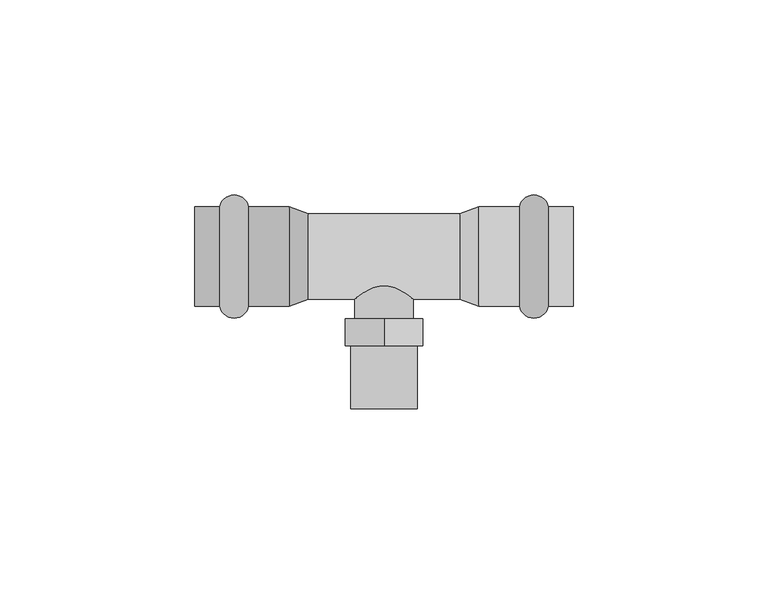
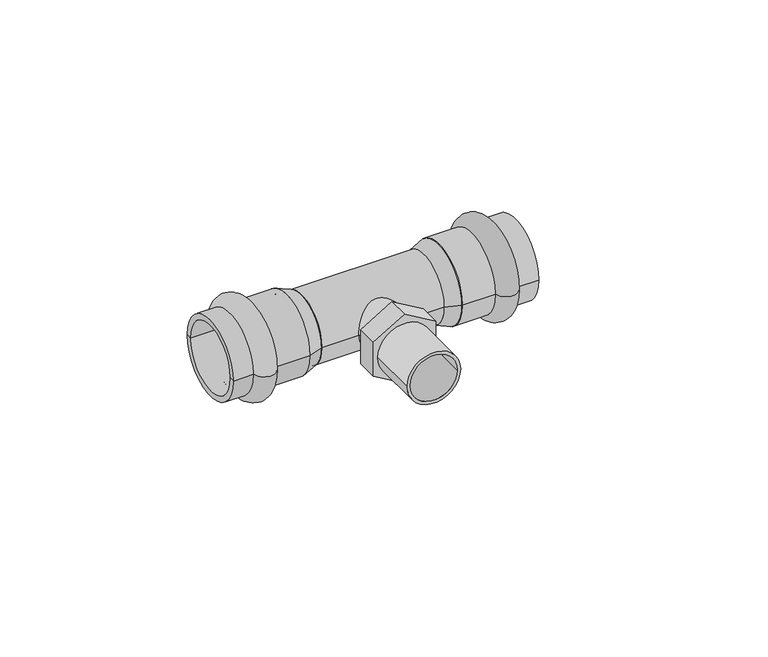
"""IFC4 building model written with IfcOpenShell, lengths in millimetres: pipe fitting geometry, VALTEC_VTi.933.I_Тройник с переходом на наружную  резьбу нержавеющая сталь : VTi.933.I."""

from ifc_helpers import new_model, si_unit, point, frame, origin, origin_2d, place, context, project, spatial, polyline, circle_curve, ellipse_curve, trimmed, segment, composite_curve, outline, extrude, source, transform, mapped, element, save
from ifc_brep_helpers import plane_surface, cylinder_surface, revolved_surface, advanced_brep


def pipe_fitting_0091a173(model_context):
    return source(origin(), model_context, "Body", "SolidModel", [
        advanced_brep(
        [(42.1242346, 12.8, 0.0), (42.1242346, -12.8, 0.0), (34.7757654, -12.8, 0.0), (34.7757654, 12.8, 0.0), (48.5, 12.8, 0.0), (48.5, -12.8, 0.0), (48.5, 11.0, 0.0), (48.5, -11.0, 0.0), (24.25, 11.0, 0.0), (24.25, -11.0, 0.0), (24.25, 12.8, 0.0), (24.25, -12.8, 0.0)],
        [
            (0, 1, circle_curve(frame((42.1242346, 0.0, 0.0), z_axis=(-1.0, 0.0, 0.0), x_axis=(0.0, -1.0, 0.0)), 12.8)),
            (1, 2, circle_curve(frame((38.45, -12.05, 0.0), z_axis=(0.0, 0.0, -1.0), x_axis=(-1.0, 0.0, 0.0)), 3.75)),
            (2, 3, circle_curve(frame((34.7757654, 0.0, 0.0), z_axis=(1.0, 0.0, 0.0), x_axis=(0.0, -1.0, 0.0)), 12.8)),
            (3, 0, circle_curve(frame((38.45, 12.05, 0.0), z_axis=(0.0, 0.0, -1.0), x_axis=(-1.0, 0.0, 0.0)), 3.75)),
            (1, 0, circle_curve(frame((42.1242346, 0.0, 0.0), z_axis=(-1.0, 0.0, 0.0), x_axis=(0.0, -1.0, 0.0)), 12.8)),
            (3, 2, circle_curve(frame((34.7757654, 0.0, 0.0), z_axis=(1.0, 0.0, 0.0), x_axis=(0.0, -1.0, 0.0)), 12.8)),
            (4, 5, circle_curve(frame((48.5, 0.0, 0.0), z_axis=(-1.0, 0.0, 0.0), x_axis=(0.0, -1.0, 0.0)), 12.8)),
            (5, 1),
            (0, 4),
            (5, 4, circle_curve(frame((48.5, 0.0, 0.0), z_axis=(-1.0, 0.0, 0.0), x_axis=(0.0, -1.0, 0.0)), 12.8)),
            (6, 7, circle_curve(frame((48.5, 0.0, 0.0), z_axis=(-1.0, 0.0, 0.0), x_axis=(0.0, -1.0, 0.0)), 11.0)),
            (7, 5),
            (4, 6),
            (7, 6, circle_curve(frame((48.5, 0.0, 0.0), z_axis=(-1.0, 0.0, 0.0), x_axis=(0.0, -1.0, 0.0)), 11.0)),
            (8, 9, circle_curve(frame((24.25, 0.0, 0.0), z_axis=(-1.0, 0.0, 0.0), x_axis=(0.0, -1.0, 0.0)), 11.0)),
            (9, 7),
            (6, 8),
            (9, 8, circle_curve(frame((24.25, 0.0, 0.0), z_axis=(-1.0, 0.0, 0.0), x_axis=(0.0, -1.0, 0.0)), 11.0)),
            (10, 11, circle_curve(frame((24.25, 0.0, 0.0), z_axis=(-1.0, 0.0, 0.0), x_axis=(0.0, -1.0, 0.0)), 12.8)),
            (11, 9),
            (8, 10),
            (11, 10, circle_curve(frame((24.25, 0.0, 0.0), z_axis=(-1.0, 0.0, 0.0), x_axis=(0.0, -1.0, 0.0)), 12.8)),
            (2, 11),
            (10, 3),
        ],
        [
            revolved_surface(trimmed(ellipse_curve(frame((38.45, -12.05, 0.0), z_axis=(0.0, 0.0, 1.0), x_axis=(-1.0, 0.0, 0.0)), 3.75, 3.75), [point((34.7757654, -12.8, 0.0))], [point((42.1242346, -12.8, 0.0))], True, "CARTESIAN"), (52.0364426, 0.0, 0.0), (1.0, 0.0, 0.0)),
            cylinder_surface(frame((52.0364426, 0.0, 0.0), z_axis=(1.0, 0.0, 0.0), x_axis=(0.0, -1.0, 0.0)), 12.8),
            plane_surface(frame((48.5, 0.0, 0.0), z_axis=(1.0, 0.0, 0.0), x_axis=(0.0, -1.0, 0.0))),
            revolved_surface(polyline([(48.5, -11.0, 0.0), (24.25, -11.0, 0.0)]), (52.0364426, 0.0, 0.0), (1.0, 0.0, 0.0)),
            plane_surface(frame((24.25, 0.0, 0.0), z_axis=(-1.0, 0.0, 0.0), x_axis=(0.0, -1.0, 0.0))),
        ],
        [
            (0, [[1, 2, 3, 4]]),
            (0, [[5, -4, 6, -2]]),
            (1, [[7, 8, -1, 9]]),
            (1, [[10, -9, -5, -8]]),
            (2, [[11, 12, -7, 13]]),
            (2, [[14, -13, -10, -12]]),
            (3, [[15, 16, -11, 17]]),
            (3, [[18, -17, -14, -16]]),
            (4, [[19, 20, -15, 21]]),
            (4, [[22, -21, -18, -20]]),
            (1, [[-3, 23, -19, 24]]),
            (1, [[-6, -24, -22, -23]]),
        ],
    ),
        advanced_brep(
        [(-42.1242346, -12.8, 0.0), (-42.1242346, 12.8, 0.0), (-34.7757654, 12.8, 0.0), (-34.7757654, -12.8, 0.0), (-48.5, -12.8, 0.0), (-48.5, 12.8, 0.0), (-48.5, -11.0, 0.0), (-48.5, 11.0, 0.0), (-24.25, -11.0, 0.0), (-24.25, 11.0, 0.0), (-24.25, -12.8, 0.0), (-24.25, 12.8, 0.0)],
        [
            (0, 1, circle_curve(frame((-42.1242346, 0.0, 0.0), z_axis=(1.0, 0.0, 0.0), x_axis=(0.0, 1.0, 0.0)), 12.8)),
            (1, 2, circle_curve(frame((-38.45, 12.05, 0.0), z_axis=(0.0, 0.0, -1.0), x_axis=(1.0, 0.0, 0.0)), 3.75)),
            (2, 3, circle_curve(frame((-34.7757654, 0.0, 0.0), z_axis=(-1.0, 0.0, 0.0), x_axis=(0.0, 1.0, 0.0)), 12.8)),
            (3, 0, circle_curve(frame((-38.45, -12.05, 0.0), z_axis=(0.0, 0.0, -1.0), x_axis=(1.0, 0.0, 0.0)), 3.75)),
            (1, 0, circle_curve(frame((-42.1242346, 0.0, 0.0), z_axis=(1.0, 0.0, 0.0), x_axis=(0.0, 1.0, 0.0)), 12.8)),
            (3, 2, circle_curve(frame((-34.7757654, 0.0, 0.0), z_axis=(-1.0, 0.0, 0.0), x_axis=(0.0, 1.0, 0.0)), 12.8)),
            (4, 5, circle_curve(frame((-48.5, 0.0, 0.0), z_axis=(1.0, 0.0, 0.0), x_axis=(0.0, 1.0, 0.0)), 12.8)),
            (5, 1),
            (0, 4),
            (5, 4, circle_curve(frame((-48.5, 0.0, 0.0), z_axis=(1.0, 0.0, 0.0), x_axis=(0.0, 1.0, 0.0)), 12.8)),
            (6, 7, circle_curve(frame((-48.5, 0.0, 0.0), z_axis=(1.0, 0.0, 0.0), x_axis=(0.0, 1.0, 0.0)), 11.0)),
            (7, 5),
            (4, 6),
            (7, 6, circle_curve(frame((-48.5, 0.0, 0.0), z_axis=(1.0, 0.0, 0.0), x_axis=(0.0, 1.0, 0.0)), 11.0)),
            (8, 9, circle_curve(frame((-24.25, 0.0, 0.0), z_axis=(1.0, 0.0, 0.0), x_axis=(0.0, 1.0, 0.0)), 11.0)),
            (9, 7),
            (6, 8),
            (9, 8, circle_curve(frame((-24.25, 0.0, 0.0), z_axis=(1.0, 0.0, 0.0), x_axis=(0.0, 1.0, 0.0)), 11.0)),
            (10, 11, circle_curve(frame((-24.25, 0.0, 0.0), z_axis=(1.0, 0.0, 0.0), x_axis=(0.0, 1.0, 0.0)), 12.8)),
            (11, 9),
            (8, 10),
            (11, 10, circle_curve(frame((-24.25, 0.0, 0.0), z_axis=(1.0, 0.0, 0.0), x_axis=(0.0, 1.0, 0.0)), 12.8)),
            (2, 11),
            (10, 3),
        ],
        [
            revolved_surface(trimmed(ellipse_curve(frame((-38.45, 12.05, 0.0), z_axis=(0.0, 0.0, 1.0), x_axis=(1.0, 0.0, 0.0)), 3.75, 3.75), [point((-34.7757654, 12.8, 0.0))], [point((-42.1242346, 12.8, 0.0))], True, "CARTESIAN"), (-52.0364426, 0.0, 0.0), (-1.0, 0.0, 0.0)),
            cylinder_surface(frame((-52.0364426, 0.0, 0.0), z_axis=(-1.0, 0.0, 0.0), x_axis=(0.0, 1.0, 0.0)), 12.8),
            plane_surface(frame((-48.5, 0.0, 0.0), z_axis=(-1.0, 0.0, 0.0), x_axis=(0.0, 1.0, 0.0))),
            revolved_surface(polyline([(-48.5, 11.0, 0.0), (-24.25, 11.0, 0.0)]), (-52.0364426, 0.0, 0.0), (-1.0, 0.0, 0.0)),
            plane_surface(frame((-24.25, 0.0, 0.0), z_axis=(1.0, 0.0, 0.0), x_axis=(0.0, 1.0, 0.0))),
        ],
        [
            (0, [[1, 2, 3, 4]]),
            (0, [[5, -4, 6, -2]]),
            (1, [[7, 8, -1, 9]]),
            (1, [[10, -9, -5, -8]]),
            (2, [[11, 12, -7, 13]]),
            (2, [[14, -13, -10, -12]]),
            (3, [[15, 16, -11, 17]]),
            (3, [[18, -17, -14, -16]]),
            (4, [[19, 20, -15, 21]]),
            (4, [[22, -21, -18, -20]]),
            (1, [[-3, 23, -19, 24]]),
            (1, [[-6, -24, -22, -23]]),
        ],
    ),
        extrude(outline(composite_curve([segment(trimmed(circle_curve(origin_2d(), 8.5), [point((0.0, -8.5))], [point((0.0, 8.5))], False, "CARTESIAN"), True, "CONTINUOUS"), segment(trimmed(circle_curve(origin_2d(), 8.5), [point((0.0, 8.5))], [point((0.0, -8.5))], False, "CARTESIAN"), True, "CONTINUOUS")], self_intersect=False), holes=[composite_curve([segment(trimmed(circle_curve(origin_2d(), 7.5), [point((0.0, -7.5))], [point((0.0, 7.5))], True, "CARTESIAN"), True, "CONTINUOUS"), segment(trimmed(circle_curve(origin_2d(), 7.5), [point((0.0, 7.5))], [point((0.0, -7.5))], True, "CARTESIAN"), True, "CONTINUOUS")], self_intersect=False)]), frame((0.0, -39.0, 0.0), z_axis=(0.0, 1.0, 0.0), x_axis=(0.0, 0.0, 1.0)), (0.0, 0.0, 1.0), 16.1),
        extrude(outline(polyline([(11.5470054, 0.0), (5.7735027, -10.0), (-5.7735027, -10.0), (-11.5470054, 0.0), (-5.7735027, 10.0), (5.7735027, 10.0), (11.5470054, 0.0)]), holes=[composite_curve([segment(trimmed(circle_curve(origin_2d(), 7.5), [point((0.0, -7.5))], [point((0.0, 7.5))], True, "CARTESIAN"), True, "CONTINUOUS"), segment(trimmed(circle_curve(origin_2d(), 7.5), [point((0.0, 7.5))], [point((0.0, -7.5))], True, "CARTESIAN"), True, "CONTINUOUS")], self_intersect=False)]), frame((0.0, -22.9, 0.0), z_axis=(0.0, 1.0, 0.0), x_axis=(0.0, 0.0, 1.0)), (0.0, 0.0, 1.0), 6.9),
        extrude(outline(composite_curve([segment(trimmed(circle_curve(origin_2d(), 7.5), [point((0.0, -7.5))], [point((0.0, 7.5))], False, "CARTESIAN"), True, "CONTINUOUS"), segment(trimmed(circle_curve(origin_2d(), 7.5), [point((0.0, 7.5))], [point((0.0, -7.5))], False, "CARTESIAN"), True, "CONTINUOUS")], self_intersect=False)), frame((0.0, -16.0, 0.0), z_axis=(0.0, 1.0, 0.0), x_axis=(0.0, 0.0, 1.0)), (0.0, 0.0, 1.0), 16.0),
        extrude(outline(composite_curve([segment(trimmed(circle_curve(origin_2d(), 11.0), [point((-11.0, 0.0))], [point((11.0, 0.0))], False, "CARTESIAN"), True, "CONTINUOUS"), segment(trimmed(circle_curve(origin_2d(), 11.0), [point((11.0, 0.0))], [point((-11.0, 0.0))], False, "CARTESIAN"), True, "CONTINUOUS")], self_intersect=False)), frame((-19.4, 0.0, 0.0), z_axis=(1.0, 0.0, 0.0), x_axis=(0.0, 1.0, 0.0)), (0.0, 0.0, 1.0), 38.8),
        advanced_brep(
        [(24.25, -12.8, 0.0), (24.25, 12.8, 0.0), (19.4, -11.0, 0.0), (19.4, 11.0, 0.0)],
        [
            (0, 1, circle_curve(frame((24.25, 0.0, 0.0), z_axis=(1.0, 0.0, 0.0), x_axis=(0.0, -1.0, 0.0)), 12.8)),
            (1, 0, circle_curve(frame((24.25, 0.0, 0.0), z_axis=(1.0, 0.0, 0.0), x_axis=(0.0, 1.0, 0.0)), 12.8)),
            (2, 3, circle_curve(frame((19.4, 0.0, 0.0), z_axis=(-1.0, 0.0, 0.0), x_axis=(0.0, 1.0, 0.0)), 11.0)),
            (3, 2, circle_curve(frame((19.4, 0.0, 0.0), z_axis=(-1.0, 0.0, 0.0), x_axis=(0.0, -1.0, 0.0)), 11.0)),
            (3, 1),
            (0, 2),
        ],
        [
            plane_surface(frame((24.25, 0.0, 0.0), z_axis=(1.0, 0.0, 0.0), x_axis=(0.0, 0.0, 1.0))),
            plane_surface(frame((19.4, 0.0, 0.0), z_axis=(-1.0, 0.0, 0.0), x_axis=(0.0, 0.0, 1.0))),
            revolved_surface(polyline([(19.4, 11.000000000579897, 0.0), (24.25, 12.8, 0.0)]), (-10.2388889, 0.0, 0.0), (1.0, 0.0, 0.0)),
            revolved_surface(polyline([(19.4, -11.000000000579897, 0.0), (24.25, -12.8, 0.0)]), (-10.2388889, 0.0, 0.0), (1.0, 0.0, 0.0)),
        ],
        [
            (0, [[1, 2]]),
            (1, [[3, 4]]),
            (2, [[-4, 5, -1, 6]]),
            (3, [[-3, -6, -2, -5]]),
        ],
    ),
        advanced_brep(
        [(-24.25, -12.8, 0.0), (-24.25, 12.8, 0.0), (-19.4, -11.0, 0.0), (-19.4, 11.0, 0.0)],
        [
            (0, 1, circle_curve(frame((-24.25, 0.0, 0.0), z_axis=(-1.0, 0.0, 0.0), x_axis=(0.0, -1.0, 0.0)), 12.8)),
            (1, 0, circle_curve(frame((-24.25, 0.0, 0.0), z_axis=(-1.0, 0.0, 0.0), x_axis=(0.0, 1.0, 0.0)), 12.8)),
            (2, 3, circle_curve(frame((-19.4, 0.0, 0.0), z_axis=(1.0, 0.0, 0.0), x_axis=(0.0, 1.0, 0.0)), 11.0)),
            (3, 2, circle_curve(frame((-19.4, 0.0, 0.0), z_axis=(1.0, 0.0, 0.0), x_axis=(0.0, -1.0, 0.0)), 11.0)),
            (2, 0),
            (1, 3),
        ],
        [
            plane_surface(frame((-24.25, 0.0, 0.0), z_axis=(-1.0, 0.0, 0.0), x_axis=(0.0, 0.0, -1.0))),
            plane_surface(frame((-19.4, 0.0, 0.0), z_axis=(1.0, 0.0, 0.0), x_axis=(0.0, 0.0, -1.0))),
            revolved_surface(polyline([(-19.4, -11.000000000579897, 0.0), (-24.25, -12.8, 0.0)]), (10.2388889, 0.0, 0.0), (-1.0, 0.0, 0.0)),
            revolved_surface(polyline([(-19.4, 11.000000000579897, 0.0), (-24.25, 12.8, 0.0)]), (10.2388889, 0.0, 0.0), (-1.0, 0.0, 0.0)),
        ],
        [
            (0, [[1, 2]]),
            (1, [[3, 4]]),
            (2, [[-3, 5, -2, 6]]),
            (3, [[-4, -6, -1, -5]]),
        ],
    ),
    ])


if __name__ == "__main__":
    model = new_model("IFC4")
    model_context = context("Model", 3, world=origin())
    ifc_project = project(units=[si_unit("LENGTHUNIT", "METRE", prefix="MILLI")], contexts=[model_context])
    site = spatial("IfcSite", under=ifc_project)
    building = spatial("IfcBuilding", under=site)
    placement = place(None, origin())
    pipe_fitting_shape = pipe_fitting_0091a173(model_context)
    element("IfcPipeFitting", 1, ObjectType="VALTEC_VTi.933.I_Тройник с переходом на наружную  резьбу нержавеющая сталь : VTi.933.I", at=placement, inside=building, context=model_context, shape_type="MappedRepresentation", body=[
        mapped(pipe_fitting_shape, transform((0.0, 0.0, 0.0), x_axis=(1.0, 0.0, 0.0), y_axis=(0.0, 1.0, 0.0), z_axis=(0.0, 0.0, 1.0))),
    ])
    save(model, "model.ifc")
